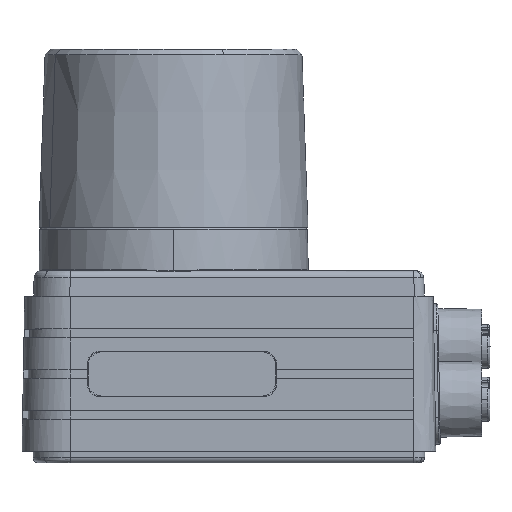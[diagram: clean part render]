
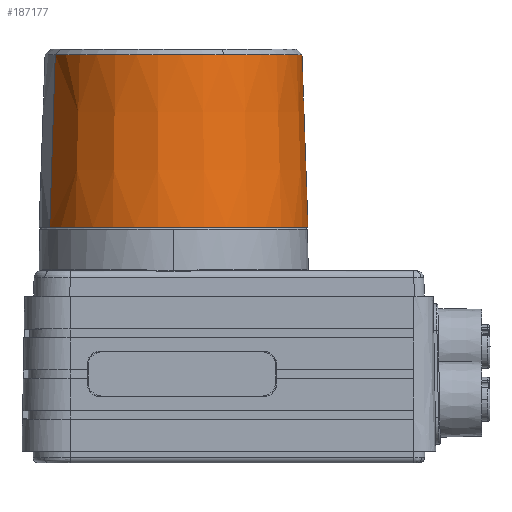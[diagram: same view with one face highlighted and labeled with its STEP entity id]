
A CAD part, left-side view. The second image highlights one B-rep face of the part: STEP entity #187177.
In plain terms, the highlighted conical face has half-angle 2 degrees and reference radius 24.4 mm.
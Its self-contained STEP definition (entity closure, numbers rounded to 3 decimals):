
#80347 = CARTESIAN_POINT ( 'NONE',  ( 0., 0., 17. ) ) ;
#80350 = FACE_OUTER_BOUND ( 'NONE', #148160, .T. ) ;
#80354 = DIRECTION ( 'NONE',  ( 0., 0., -1. ) ) ;
#80400 = DIRECTION ( 'NONE',  ( -1., 0., 0. ) ) ;
#94457 = CONICAL_SURFACE ( 'NONE', #94461, 24.4, 0.035 ) ;
#94461 = AXIS2_PLACEMENT_3D ( 'NONE', #80347, #80354, #80400 ) ;
#148160 = EDGE_LOOP ( 'NONE', ( #215010, #215011, #215012, #215013, #215014 ) ) ;
#149102 = CARTESIAN_POINT ( 'NONE',  ( 0., 0., 48.301 ) ) ;
#149104 = DIRECTION ( 'NONE',  ( 0., 0., -1. ) ) ;
#149106 = DIRECTION ( 'NONE',  ( -1., 0., 0. ) ) ;
#149196 = CARTESIAN_POINT ( 'NONE',  ( 0., 0., 17. ) ) ;
#149197 = DIRECTION ( 'NONE',  ( 0., 0., -1. ) ) ;
#149198 = DIRECTION ( 'NONE',  ( -1., 0., 0. ) ) ;
#149232 = LINE ( 'NONE', #149260, #176481 ) ;
#149260 = CARTESIAN_POINT ( 'NONE',  ( -24.4, 0., 17. ) ) ;
#149264 = DIRECTION ( 'NONE',  ( -0.035, 0., -0.999 ) ) ;
#149304 = LINE ( 'NONE', #149321, #176471 ) ;
#149321 = CARTESIAN_POINT ( 'NONE',  ( 24.4, 0., 17. ) ) ;
#149324 = DIRECTION ( 'NONE',  ( -0.035, 0., 0.999 ) ) ;
#155185 = CARTESIAN_POINT ( 'NONE',  ( 0., 0., 48.301 ) ) ;
#155187 = DIRECTION ( 'NONE',  ( 0., 0., -1. ) ) ;
#155189 = DIRECTION ( 'NONE',  ( -1., 0., 0. ) ) ;
#156747 = VERTEX_POINT ( 'NONE', #180743 ) ;
#156750 = VERTEX_POINT ( 'NONE', #180748 ) ;
#156762 = VERTEX_POINT ( 'NONE', #180750 ) ;
#156774 = VERTEX_POINT ( 'NONE', #180787 ) ;
#156777 = VERTEX_POINT ( 'NONE', #180776 ) ;
#176178 = CIRCLE ( 'NONE', #176187, 23.307 ) ;
#176187 = AXIS2_PLACEMENT_3D ( 'NONE', #155185, #155187, #155189 ) ;
#176414 = CIRCLE ( 'NONE', #176449, 23.307 ) ;
#176449 = AXIS2_PLACEMENT_3D ( 'NONE', #149102, #149104, #149106 ) ;
#176464 = CIRCLE ( 'NONE', #176475, 24.4 ) ;
#176471 = VECTOR ( 'NONE', #149324, 1000. ) ;
#176475 = AXIS2_PLACEMENT_3D ( 'NONE', #149196, #149197, #149198 ) ;
#176481 = VECTOR ( 'NONE', #149264, 1000. ) ;
#180743 = CARTESIAN_POINT ( 'NONE',  ( -23.307, 0., 48.301 ) ) ;
#180748 = CARTESIAN_POINT ( 'NONE',  ( 0., 23.307, 48.301 ) ) ;
#180750 = CARTESIAN_POINT ( 'NONE',  ( -24.4, 0., 17. ) ) ;
#180776 = CARTESIAN_POINT ( 'NONE',  ( 24.4, 0., 17. ) ) ;
#180787 = CARTESIAN_POINT ( 'NONE',  ( 23.307, 0., 48.301 ) ) ;
#183381 = EDGE_CURVE ( 'NONE', #156747, #156750, #176178, .T. ) ;
#183463 = EDGE_CURVE ( 'NONE', #156750, #156774, #176414, .T. ) ;
#183475 = EDGE_CURVE ( 'NONE', #156762, #156777, #176464, .T. ) ;
#183479 = EDGE_CURVE ( 'NONE', #156747, #156762, #149232, .T. ) ;
#183485 = EDGE_CURVE ( 'NONE', #156777, #156774, #149304, .T. ) ;
#187177 = ADVANCED_FACE ( 'NONE', ( #80350 ), #94457, .T. ) ;
#215010 = ORIENTED_EDGE ( 'NONE', *, *, #183475, .F. ) ;
#215011 = ORIENTED_EDGE ( 'NONE', *, *, #183479, .F. ) ;
#215012 = ORIENTED_EDGE ( 'NONE', *, *, #183381, .T. ) ;
#215013 = ORIENTED_EDGE ( 'NONE', *, *, #183463, .T. ) ;
#215014 = ORIENTED_EDGE ( 'NONE', *, *, #183485, .F. ) ;
